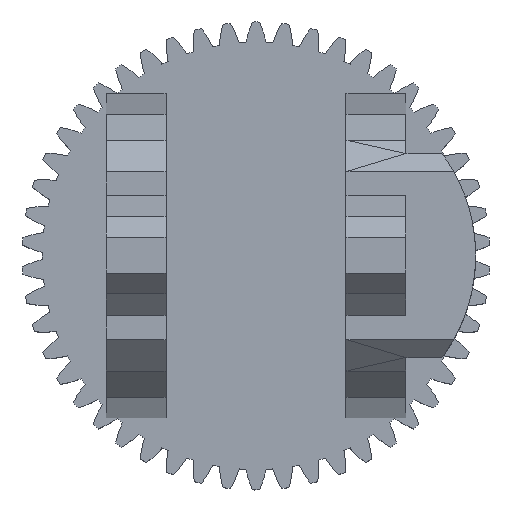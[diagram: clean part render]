
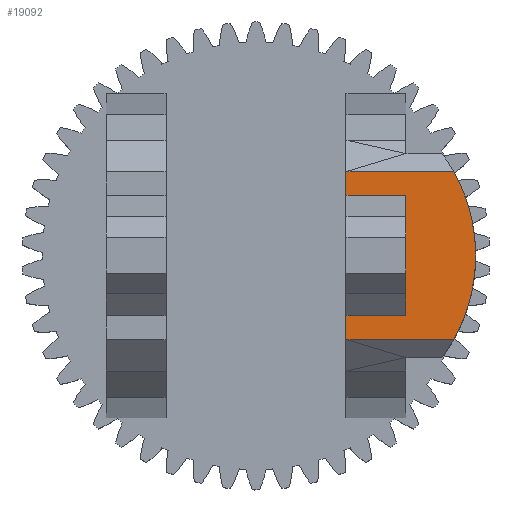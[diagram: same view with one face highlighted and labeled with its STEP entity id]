
A CAD part, top view. The second image highlights one B-rep face of the part: STEP entity #19092.
In plain terms, the highlighted planar face has unit normal (0, 0, 1).
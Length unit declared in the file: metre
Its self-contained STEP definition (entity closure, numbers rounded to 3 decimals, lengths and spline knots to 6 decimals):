
#2755=ORIENTED_EDGE('',*,*,#7543,.F.);
#2756=ORIENTED_EDGE('',*,*,#7544,.F.);
#2757=ORIENTED_EDGE('',*,*,#7545,.F.);
#2758=ORIENTED_EDGE('',*,*,#6891,.F.);
#2759=ORIENTED_EDGE('',*,*,#6887,.F.);
#2760=ORIENTED_EDGE('',*,*,#6883,.F.);
#2761=ORIENTED_EDGE('',*,*,#6879,.F.);
#2762=ORIENTED_EDGE('',*,*,#6875,.F.);
#2763=ORIENTED_EDGE('',*,*,#6871,.F.);
#2764=ORIENTED_EDGE('',*,*,#6867,.F.);
#2765=ORIENTED_EDGE('',*,*,#6863,.F.);
#2766=ORIENTED_EDGE('',*,*,#6859,.F.);
#2767=ORIENTED_EDGE('',*,*,#6855,.F.);
#2768=ORIENTED_EDGE('',*,*,#6851,.F.);
#2769=ORIENTED_EDGE('',*,*,#6847,.F.);
#2770=ORIENTED_EDGE('',*,*,#6842,.F.);
#2771=ORIENTED_EDGE('',*,*,#7546,.F.);
#2772=ORIENTED_EDGE('',*,*,#7547,.F.);
#2773=ORIENTED_EDGE('',*,*,#7548,.F.);
#2774=ORIENTED_EDGE('',*,*,#7549,.F.);
#6842=EDGE_CURVE('',#9290,#9291,#11325,.F.);
#6847=EDGE_CURVE('',#9291,#9293,#11330,.F.);
#6851=EDGE_CURVE('',#9293,#9295,#11334,.F.);
#6855=EDGE_CURVE('',#9295,#9297,#11338,.F.);
#6859=EDGE_CURVE('',#9297,#9299,#11342,.F.);
#6863=EDGE_CURVE('',#9299,#9301,#11346,.F.);
#6867=EDGE_CURVE('',#9301,#9303,#11350,.T.);
#6871=EDGE_CURVE('',#9303,#9305,#11354,.F.);
#6875=EDGE_CURVE('',#9305,#9307,#11358,.F.);
#6879=EDGE_CURVE('',#9307,#9309,#11362,.F.);
#6883=EDGE_CURVE('',#9309,#9311,#11366,.F.);
#6887=EDGE_CURVE('',#9311,#9313,#11370,.F.);
#6891=EDGE_CURVE('',#9313,#9258,#11374,.F.);
#7543=EDGE_CURVE('',#9867,#9868,#12026,.T.);
#7544=EDGE_CURVE('',#8357,#9867,#12027,.F.);
#7545=EDGE_CURVE('',#9258,#8357,#12028,.T.);
#7546=EDGE_CURVE('',#8349,#9290,#12029,.F.);
#7547=EDGE_CURVE('',#9869,#8349,#12030,.F.);
#7548=EDGE_CURVE('',#9870,#9869,#12031,.F.);
#7549=EDGE_CURVE('',#9868,#9870,#12032,.F.);
#8349=VERTEX_POINT('',#25790);
#8357=VERTEX_POINT('',#25813);
#9258=VERTEX_POINT('',#28087);
#9290=VERTEX_POINT('',#28279);
#9291=VERTEX_POINT('',#28289);
#9293=VERTEX_POINT('',#28299);
#9295=VERTEX_POINT('',#28307);
#9297=VERTEX_POINT('',#28315);
#9299=VERTEX_POINT('',#28323);
#9301=VERTEX_POINT('',#28331);
#9303=VERTEX_POINT('',#28339);
#9305=VERTEX_POINT('',#28347);
#9307=VERTEX_POINT('',#28355);
#9309=VERTEX_POINT('',#28363);
#9311=VERTEX_POINT('',#28371);
#9313=VERTEX_POINT('',#28379);
#9867=VERTEX_POINT('',#29636);
#9868=VERTEX_POINT('',#29637);
#9869=VERTEX_POINT('',#29642);
#9870=VERTEX_POINT('',#29644);
#11325=LINE('',#28288,#14088);
#11330=LINE('',#28298,#14093);
#11334=LINE('',#28306,#14097);
#11338=LINE('',#28314,#14101);
#11342=LINE('',#28322,#14105);
#11346=LINE('',#28330,#14109);
#11350=LINE('',#28338,#14113);
#11354=LINE('',#28346,#14117);
#11358=LINE('',#28354,#14121);
#11362=LINE('',#28362,#14125);
#11366=LINE('',#28370,#14129);
#11370=LINE('',#28378,#14133);
#11374=LINE('',#28385,#14137);
#12026=LINE('',#29635,#14789);
#12027=LINE('',#29638,#14790);
#12028=LINE('',#29639,#14791);
#12029=LINE('',#29640,#14792);
#12030=LINE('',#29641,#14793);
#12031=LINE('',#29643,#14794);
#12032=LINE('',#29645,#14795);
#14088=VECTOR('',#22744,1.);
#14093=VECTOR('',#22755,1.);
#14097=VECTOR('',#22763,1.);
#14101=VECTOR('',#22771,1.);
#14105=VECTOR('',#22779,1.);
#14109=VECTOR('',#22787,1.);
#14113=VECTOR('',#22795,1.);
#14117=VECTOR('',#22803,1.);
#14121=VECTOR('',#22811,1.);
#14125=VECTOR('',#22819,1.);
#14129=VECTOR('',#22827,1.);
#14133=VECTOR('',#22835,1.);
#14137=VECTOR('',#22843,1.);
#14789=VECTOR('',#23585,1.);
#14790=VECTOR('',#23586,1.);
#14791=VECTOR('',#23587,1.);
#14792=VECTOR('',#23588,1.);
#14793=VECTOR('',#23589,1.);
#14794=VECTOR('',#23590,1.);
#14795=VECTOR('',#23591,1.);
#15931=EDGE_LOOP('',(#2755,#2756,#2757,#2758,#2759,#2760,#2761,#2762,#2763,
#2764,#2765,#2766,#2767,#2768,#2769,#2770,#2771,#2772,#2773,#2774));
#16992=FACE_BOUND('',#15931,.T.);
#18044=PLANE('',#20153);
#19092=ADVANCED_FACE('',(#16992),#18044,.T.);
#20153=AXIS2_PLACEMENT_3D('',#29634,#23583,#23584);
#22744=DIRECTION('',(-0.456,0.89,0.));
#22755=DIRECTION('',(-0.384,0.923,0.));
#22763=DIRECTION('',(-0.31,0.951,0.));
#22771=DIRECTION('',(-0.234,0.972,0.));
#22779=DIRECTION('',(-0.157,0.988,0.));
#22787=DIRECTION('',(-0.079,0.997,0.));
#22795=DIRECTION('',(0.,-1.,0.));
#22803=DIRECTION('',(0.079,0.997,0.));
#22811=DIRECTION('',(0.157,0.988,0.));
#22819=DIRECTION('',(0.234,0.972,0.));
#22827=DIRECTION('',(0.31,0.951,0.));
#22835=DIRECTION('',(0.384,0.923,0.));
#22843=DIRECTION('',(0.456,0.89,0.));
#23583=DIRECTION('',(0.,0.,1.));
#23584=DIRECTION('',(1.,0.,0.));
#23585=DIRECTION('',(1.,0.,0.));
#23586=DIRECTION('',(0.,-1.,0.));
#23587=DIRECTION('',(-1.,0.,0.));
#23588=DIRECTION('',(-1.,0.,0.));
#23589=DIRECTION('',(0.,-1.,0.));
#23590=DIRECTION('',(1.,0.,0.));
#23591=DIRECTION('',(0.,-1.,0.));
#25790=CARTESIAN_POINT('',(0.015,0.014,0.05));
#25813=CARTESIAN_POINT('',(0.015,-0.014,0.05));
#28087=CARTESIAN_POINT('',(0.032947,-0.014,0.05));
#28279=CARTESIAN_POINT('',(0.032947,0.014,0.05));
#28288=CARTESIAN_POINT('',(0.033565,0.012792,0.05));
#28289=CARTESIAN_POINT('',(0.033973,0.011997,0.05));
#28298=CARTESIAN_POINT('',(0.034479,0.010779,0.05));
#28299=CARTESIAN_POINT('',(0.034838,0.009919,0.05));
#28306=CARTESIAN_POINT('',(0.035235,0.008702,0.05));
#28307=CARTESIAN_POINT('',(0.035536,0.00778,0.05));
#28314=CARTESIAN_POINT('',(0.035827,0.006573,0.05));
#28315=CARTESIAN_POINT('',(0.036064,0.005592,0.05));
#28322=CARTESIAN_POINT('',(0.036253,0.004404,0.05));
#28323=CARTESIAN_POINT('',(0.036418,0.003369,0.05));
#28330=CARTESIAN_POINT('',(0.036509,0.002209,0.05));
#28331=CARTESIAN_POINT('',(0.036595,0.001125,0.05));
#28338=CARTESIAN_POINT('',(0.036595,0.,0.05));
#28339=CARTESIAN_POINT('',(0.036595,-0.001125,0.05));
#28346=CARTESIAN_POINT('',(0.036509,-0.002209,0.05));
#28347=CARTESIAN_POINT('',(0.036418,-0.003369,0.05));
#28354=CARTESIAN_POINT('',(0.036253,-0.004404,0.05));
#28355=CARTESIAN_POINT('',(0.036064,-0.005592,0.05));
#28362=CARTESIAN_POINT('',(0.035827,-0.006573,0.05));
#28363=CARTESIAN_POINT('',(0.035536,-0.00778,0.05));
#28370=CARTESIAN_POINT('',(0.035235,-0.008702,0.05));
#28371=CARTESIAN_POINT('',(0.034838,-0.009919,0.05));
#28378=CARTESIAN_POINT('',(0.034479,-0.010779,0.05));
#28379=CARTESIAN_POINT('',(0.033973,-0.011997,0.05));
#28385=CARTESIAN_POINT('',(0.033565,-0.012792,0.05));
#29634=CARTESIAN_POINT('',(0.025765,0.,0.05));
#29635=CARTESIAN_POINT('',(0.02,-0.01,0.05));
#29636=CARTESIAN_POINT('',(0.015,-0.01,0.05));
#29637=CARTESIAN_POINT('',(0.025,-0.01,0.05));
#29638=CARTESIAN_POINT('',(0.015,0.,0.05));
#29639=CARTESIAN_POINT('',(0.02441,-0.014,0.05));
#29640=CARTESIAN_POINT('',(0.02441,0.014,0.05));
#29641=CARTESIAN_POINT('',(0.015,0.,0.05));
#29642=CARTESIAN_POINT('',(0.015,0.01,0.05));
#29643=CARTESIAN_POINT('',(0.02,0.01,0.05));
#29644=CARTESIAN_POINT('',(0.025,0.01,0.05));
#29645=CARTESIAN_POINT('',(0.025,0.,0.05));
